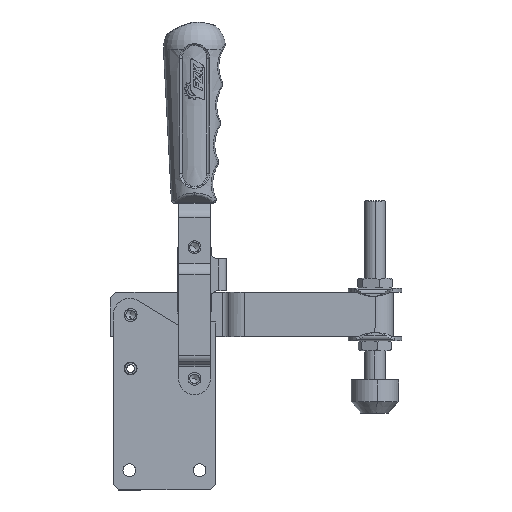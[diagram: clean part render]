
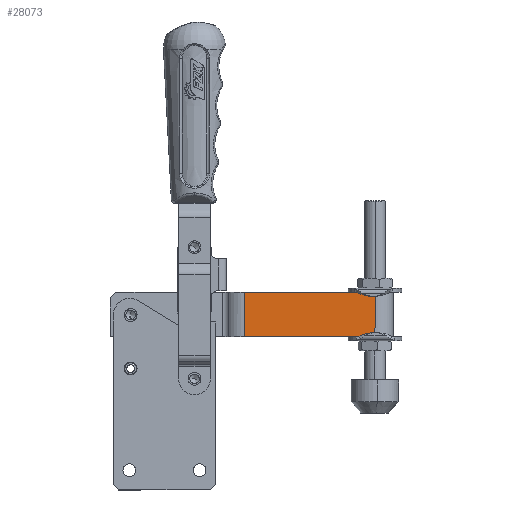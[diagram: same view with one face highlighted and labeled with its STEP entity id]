
A CAD part, top view. The second image highlights one B-rep face of the part: STEP entity #28073.
In plain terms, the highlighted planar face has unit normal (0, 0, 1) as drawn and (0, -1, 0) by its records, which use the part's own axes.
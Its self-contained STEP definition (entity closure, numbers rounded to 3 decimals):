
#356 = EDGE_CURVE ( 'NONE', #26670, #20346, #892, .T. ) ;
#892 = LINE ( 'NONE', #17963, #10484 ) ;
#1137 = LINE ( 'NONE', #5884, #13063 ) ;
#5345 = DIRECTION ( 'NONE',  ( 1., 0., 0. ) ) ;
#5654 = PLANE ( 'NONE',  #12935 ) ;
#5884 = CARTESIAN_POINT ( 'NONE',  ( 105.471, -8.25, 0. ) ) ;
#6890 = CARTESIAN_POINT ( 'NONE',  ( 105.471, -8.25, 35. ) ) ;
#8116 = LINE ( 'NONE', #19683, #24574 ) ;
#8373 = ORIENTED_EDGE ( 'NONE', *, *, #11507, .F. ) ;
#8468 = DIRECTION ( 'NONE',  ( 0., 0., -1. ) ) ;
#10484 = VECTOR ( 'NONE', #8468, 1000. ) ;
#11507 = EDGE_CURVE ( 'NONE', #13895, #29079, #19811, .T. ) ;
#11605 = EDGE_CURVE ( 'NONE', #20346, #29079, #1137, .T. ) ;
#12935 = AXIS2_PLACEMENT_3D ( 'NONE', #15293, #25107, #5345 ) ;
#13063 = VECTOR ( 'NONE', #25177, 1000. ) ;
#13189 = ORIENTED_EDGE ( 'NONE', *, *, #11605, .T. ) ;
#13895 = VERTEX_POINT ( 'NONE', #26786 ) ;
#15293 = CARTESIAN_POINT ( 'NONE',  ( 105.471, -8.25, 35. ) ) ;
#17281 = EDGE_LOOP ( 'NONE', ( #13189, #8373, #30926, #29040 ) ) ;
#17596 = DIRECTION ( 'NONE',  ( 0., 0., -1. ) ) ;
#17681 = FACE_OUTER_BOUND ( 'NONE', #17281, .T. ) ;
#17963 = CARTESIAN_POINT ( 'NONE',  ( 105.471, -8.25, 35. ) ) ;
#18874 = CARTESIAN_POINT ( 'NONE',  ( 105.471, -8.25, 0. ) ) ;
#19683 = CARTESIAN_POINT ( 'NONE',  ( 105.471, -8.25, 35. ) ) ;
#19811 = LINE ( 'NONE', #24563, #31234 ) ;
#20346 = VERTEX_POINT ( 'NONE', #18874 ) ;
#24563 = CARTESIAN_POINT ( 'NONE',  ( 207.35, -8.25, 35. ) ) ;
#24574 = VECTOR ( 'NONE', #24885, 1000. ) ;
#24885 = DIRECTION ( 'NONE',  ( 1., 0., 0. ) ) ;
#25107 = DIRECTION ( 'NONE',  ( 0., 1., 0. ) ) ;
#25177 = DIRECTION ( 'NONE',  ( 1., 0., 0. ) ) ;
#26670 = VERTEX_POINT ( 'NONE', #6890 ) ;
#26786 = CARTESIAN_POINT ( 'NONE',  ( 207.35, -8.25, 35. ) ) ;
#28073 = ADVANCED_FACE ( 'NONE', ( #17681 ), #5654, .F. ) ;
#28288 = CARTESIAN_POINT ( 'NONE',  ( 207.35, -8.25, 0. ) ) ;
#29040 = ORIENTED_EDGE ( 'NONE', *, *, #356, .T. ) ;
#29079 = VERTEX_POINT ( 'NONE', #28288 ) ;
#29514 = EDGE_CURVE ( 'NONE', #26670, #13895, #8116, .T. ) ;
#30926 = ORIENTED_EDGE ( 'NONE', *, *, #29514, .F. ) ;
#31234 = VECTOR ( 'NONE', #17596, 1000. ) ;
